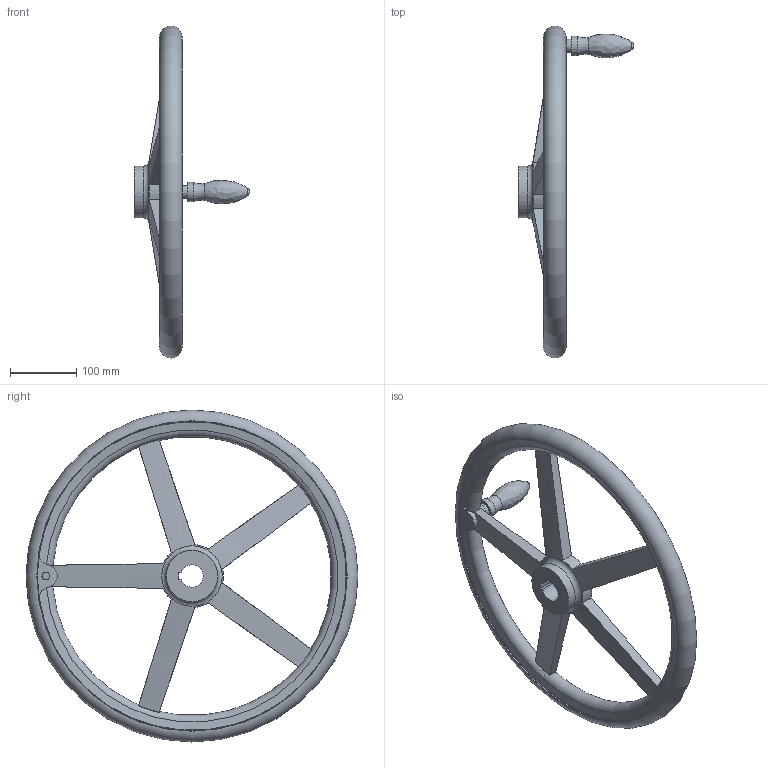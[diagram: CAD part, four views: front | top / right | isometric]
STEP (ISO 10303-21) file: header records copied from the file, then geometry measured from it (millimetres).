
FILE_DESCRIPTION( ( 'STEP AP203' ), '1' );
FILE_NAME( 'C:/Temp/Ganter_Step_05_03_2020/data/1_3/din_950/din_950_k/din_950_k_d/Handwheel DIN 950-AL-500-K34-D.stp', '2020-03-05T10:31:06', ( 'License CC BY-ND 4.0' ), ( 'CADENAS' ), ' ', 'PARTsolutions', ' ' );
FILE_SCHEMA( ( 'CONFIG_CONTROL_DESIGN' ) );
Length unit declared in the file: millimetre
Products named in the file (1): _Handwheel DIN 950-AL-500-K34-D
Bounding box: 174 x 499.98 x 499.98 mm (x, y, z)
Volume: 2154614.4 mm3; surface area: 289547.6 mm2
Topology: 1 solids, 1 shells, 68 faces, 197 edges, 127 vertices
Faces by surface type: torus 21, cylinder 20, plane 19, cone 6, bspline 1, sphere 1
Full cylindrical faces by diameter (mm): 20 x1, 29 x1, 78 x2, 466 x2
Entity records: 2706 total; most frequent: CARTESIAN_POINT 1045, ORIENTED_EDGE 342, DIRECTION 308, EDGE_CURVE 171, AXIS2_PLACEMENT_3D 141, VERTEX_POINT 123, EDGE_LOOP 96, FACE_OUTER_BOUND 83
